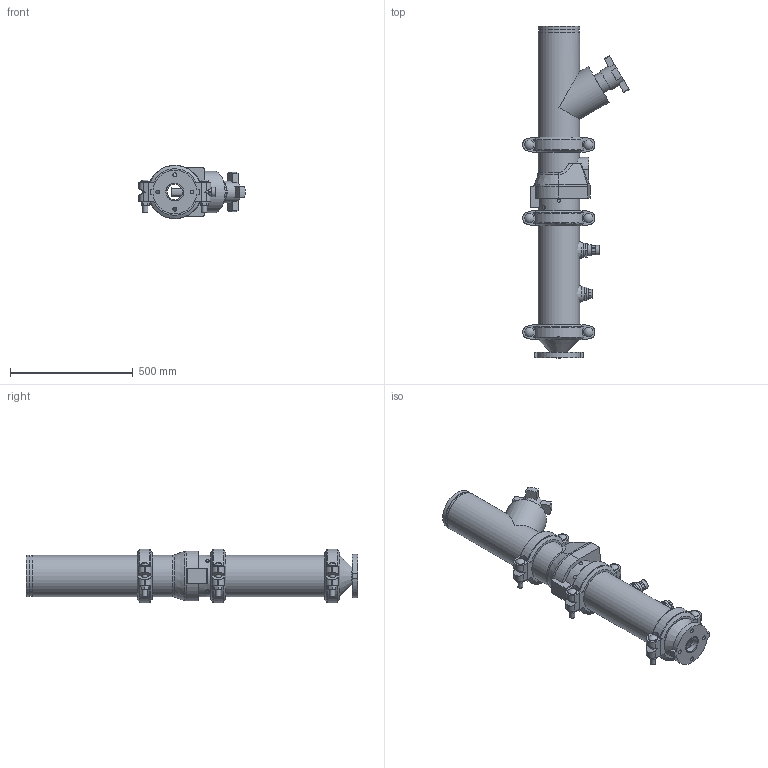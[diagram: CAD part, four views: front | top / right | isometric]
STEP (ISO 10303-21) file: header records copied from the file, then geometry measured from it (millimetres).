
FILE_DESCRIPTION(/* description */ ('VIC DVI PUMP DROP VERT S/383 (OGSxFLG) (S/924-0.75)','CAx-IF Rec.Pracs.---Representation and Presentation of Product Manufacturing Information (PMI)---4.0---2014-10-13'),/* implementation_level */ '2;1');
FILE_NAME(/* name */ 'C:\Users\Public\Documents\Victaulic.Temp\A849\Victaulic_IPS_Vertical DVI_CL 150_Series 383 (OGSxFLG)_924 (0.75)_06.0x02.5 (150x65).stp',/* time_stamp */ '2022-07-25T11:40:09+02:00',/* author */ ('Vjadhav'),/* organization */ ('Victaulic'),/* preprocessor_version */ 'ST-DEVELOPER v18',/* originating_system */ 'Autodesk Inventor 2020',/* authorisation */ '');
FILE_SCHEMA (('AP242_MANAGED_MODEL_BASED_3D_ENGINEERING_MIM_LF { 1 0 10303 442 1 1 4 }'));
Length unit declared in the file: inch
Products named in the file (9): 383_924 (0.75)-06.0x02.5; 741-02.5; 050-06.0x02.5; Pipe-06.0; 177N-06.0; 789-06.0; 779-06.0; 924-04.0x0.75; 923-04.0x0.75
Assembly tree (10 placements, depth 2):
  383_924 (0.75)-06.0x02.5
    741-02.5
    050-06.0x02.5
    177N-06.0  x3
    Pipe-06.0
    789-06.0
    779-06.0
    924-04.0x0.75
    923-04.0x0.75
Bounding box: 432.05 x 1349.5 x 219.2 mm (x, y, z)
Volume: 14052132.9 mm3; surface area: 2133508 mm2
Topology: 10 solids, 10 shells, 530 faces, 1403 edges, 942 vertices
Faces by surface type: plane 310, cylinder 175, cone 19, torus 18, sphere 6, bspline 2
Full cylindrical faces by diameter (mm): 13.716 x4, 15.875 x4, 21.209 x6, 26.67 x2, 37.694 x6, 38.608 x1, 45.974 x4, 55.626 x2, 62.713 x1, 69.088 x1, 73.025 x3, 79.375 x1, 88.9 x1, 154.051 x4, 155.575 x3, 163.957 x7, 168.275 x19
Entity records: 11979 total; most frequent: CARTESIAN_POINT 2465, DIRECTION 1956, ORIENTED_EDGE 1786, EDGE_CURVE 893, AXIS2_PLACEMENT_3D 745, VERTEX_POINT 606, LINE 466, VECTOR 466
